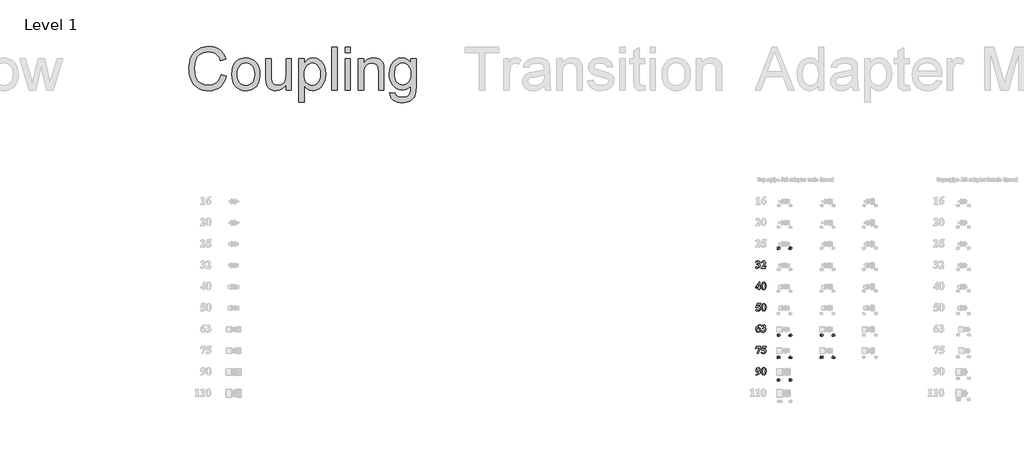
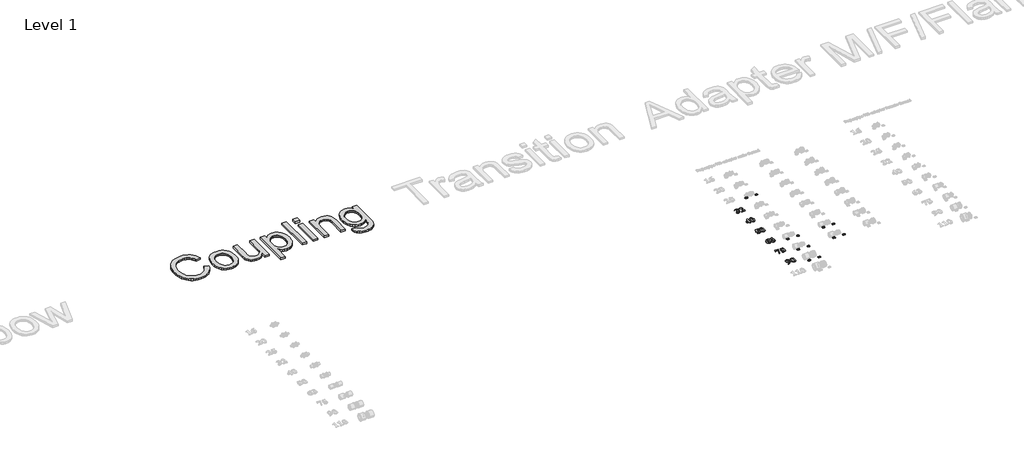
# One storey, part 32 of 57: 19 proxies.
"""IFC4 building model written with IfcOpenShell, lengths in millimetres."""

from ifc_helpers import new_model, si_unit, frame, origin, place, context, project, spatial, polyline, outline, extrude, element, save

model = new_model("IFC4")

# Units and contexts
model_context = context("Model", 3, world=origin())
ifc_project = project(units=[si_unit("LENGTHUNIT", "METRE", prefix="MILLI")], contexts=[model_context])

# Site, building, storey
site = spatial("IfcSite", under=ifc_project)
building = spatial("IfcBuilding", under=site)
storey = spatial("IfcBuildingStorey", under=building, Name="Level 1", Elevation=27.3876384)

# Proxies
placement = place(None, origin())
element("IfcBuildingElementProxy", 1, Name="100mm Arial", ObjectType="100mm Arial", at=placement, inside=storey, context=model_context, shape_type="SweptSolid", body=[
    extrude(outline(polyline([(28799.1420734, 17762.0336893), (28799.1420734, 17763.7786156), (28811.5746733, 17768.5907951), (28817.5592251, 17775.379649), (28820.0811889, 17784.6359377), (28815.3780673, 17795.773475), (28803.667976, 17800.4220677), (28793.6073853, 17797.9887135), (28785.1826631, 17790.6886508), (28783.4377368, 17791.6974363), (28797.8470109, 17806.0794459), (28817.436535, 17810.8916255), (28827.4869015, 17809.4397923), (28835.6083065, 17805.0842927), (28840.9759997, 17798.7861993), (28842.7652307, 17791.506585), (28838.7573531, 17781.7322713), (28826.1884309, 17773.4575036), (28842.4107926, 17762.1700117), (28846.6027053, 17754.6109365), (28848.0000096, 17745.3478316), (28845.0077337, 17729.585558), (28836.0309058, 17716.3793288), (28822.0305988, 17707.4331734), (28803.9678852, 17704.4511217), (28792.3668518, 17705.7325519), (28784.3919934, 17709.5768427), (28779.9478842, 17718.8740281), (28782.5243769, 17725.9491589), (28788.4816644, 17728.8800898), (28793.3347406, 17727.7895108), (28802.1956944, 17721.0551859), (28816.4822784, 17714.9206794), (28826.4065467, 17719.3784208), (28830.5507467, 17730.679545), (28828.5502159, 17740.6890148), (28822.5486238, 17749.8873665), (28812.6959247, 17757.3203435), (28799.1420734, 17762.0336893)])), frame((0.0, 0.0, 27.3876384), z_axis=(0.0, 0.0, 1.0), x_axis=(1.0, 0.0, 0.0)), (0.0, 0.0, 1.0), 2.0),
    extrude(outline(polyline([(28920.3326573, 17706.196048), (28858.4695674, 17706.196048), (28858.4695674, 17707.9409743), (28894.2405563, 17752.5456526), (28900.3477984, 17774.9297852), (28895.1266517, 17788.166687), (28882.3805104, 17793.4423626), (28871.3929277, 17790.5114317), (28863.1863212, 17781.718639), (28860.3780805, 17782.7274246), (28865.6367158, 17795.2281856), (28873.0696928, 17803.9937137), (28882.2475961, 17809.1671476), (28892.7410103, 17810.8916255), (28907.2729746, 17807.3063472), (28917.5653133, 17797.4911369), (28921.2869139, 17785.80831), (28915.7794903, 17765.6598643), (28903.7763059, 17749.1171451), (28882.871271, 17727.1351635), (28904.8464365, 17727.1351635), (28915.3841554, 17727.7349819), (28919.392033, 17729.7798174), (28923.5226007, 17735.8597949), (28926.5216927, 17735.8597949), (28920.3326573, 17706.196048)])), frame((0.0, 0.0, 27.3876384), z_axis=(0.0, 0.0, 1.0), x_axis=(1.0, 0.0, 0.0)), (0.0, 0.0, 1.0), 2.0),
])
element("IfcBuildingElementProxy", 2, Name="100mm Arial", ObjectType="100mm Arial", at=placement, inside=storey, context=model_context, shape_type="SweptSolid", body=[
    extrude(outline(polyline([(28783.4377368, 17444.5844264), (28832.7046401, 17510.8916255), (28842.7652307, 17510.8916255), (28842.7652307, 17444.5844264), (28851.4898622, 17444.5844264), (28851.4898622, 17428.8800898), (28842.7652307, 17428.8800898), (28842.7652307, 17406.196048), (28820.0811889, 17406.196048), (28820.0811889, 17428.8800898), (28783.4377368, 17428.8800898), (28783.4377368, 17444.5844264)]), holes=[polyline([(28788.7270446, 17444.5844264), (28820.0811889, 17444.5844264), (28820.0811889, 17486.7625666), (28788.7270446, 17444.5844264)])]), frame((0.0, 0.0, 27.3876384), z_axis=(0.0, 0.0, 1.0), x_axis=(1.0, 0.0, 0.0)), (0.0, 0.0, 1.0), 2.0),
    extrude(outline(polyline([(28930.0115453, 17457.6713736), (28925.5674362, 17429.0982056), (28918.4514086, 17415.7658781), (28908.3090246, 17407.5047427), (28895.9582182, 17404.4511217), (28882.1760269, 17408.213619), (28871.2838698, 17419.0103504), (28865.3129502, 17432.6425871), (28861.9594199, 17456.4717368), (28866.7852317, 17487.0624758), (28871.7746303, 17497.2491647), (28878.8361289, 17504.7434868), (28895.9582182, 17510.8916255), (28913.0939396, 17504.8252802), (28924.8040309, 17488.5074929), (28930.0115453, 17457.6713736)]), holes=[polyline([(28907.3275035, 17457.6713736), (28906.9730654, 17489.0255179), (28902.8561299, 17503.2303085), (28895.9036892, 17505.6568466), (28890.0690919, 17503.8301269), (28885.7613051, 17494.505677), (28884.6434617, 17447.8561632), (28886.3611236, 17418.6831767), (28890.0554597, 17411.498988), (28896.4217142, 17409.6859006), (28902.8561299, 17412.1124387), (28906.9730654, 17425.1721214), (28907.3275035, 17457.6713736)])]), frame((0.0, 0.0, 27.3876384), z_axis=(0.0, 0.0, 1.0), x_axis=(1.0, 0.0, 0.0)), (0.0, 0.0, 1.0), 2.0),
])
element("IfcBuildingElementProxy", 3, Name="100mm Arial", ObjectType="100mm Arial", at=placement, inside=storey, context=model_context, shape_type="SweptSolid", body=[
    extrude(outline(polyline([(28802.631926, 17209.1466992), (28851.4898622, 17209.1466992), (28844.510157, 17188.2075837), (28800.2326524, 17188.2075837), (28797.042709, 17179.4829522), (28821.3353547, 17175.7068227), (28839.3026426, 17166.3414761), (28848.4430573, 17155.0880647), (28851.4898622, 17141.394483), (28845.7915873, 17122.6910543), (28830.0736184, 17109.0042887), (28808.0848207, 17104.4511217), (28788.2635486, 17109.249669), (28783.4377368, 17116.9655149), (28785.9597006, 17122.8410089), (28791.8351946, 17125.3902372), (28797.9697011, 17124.0815425), (28808.6028457, 17117.1836307), (28816.7821877, 17112.4123479), (28822.2078178, 17111.4308268), (28833.0590782, 17115.9976261), (28837.5304518, 17126.9715766), (28834.1360249, 17139.0088416), (28823.9527441, 17148.5650395), (28808.5960295, 17154.8017878), (28789.6813012, 17156.8807039), (28783.4377368, 17156.7989104), (28802.631926, 17209.1466992)])), frame((0.0, 0.0, 27.3876384), z_axis=(0.0, 0.0, 1.0), x_axis=(1.0, 0.0, 0.0)), (0.0, 0.0, 1.0), 2.0),
    extrude(outline(polyline([(28930.0115453, 17157.6713736), (28925.5674362, 17129.0982056), (28918.4514086, 17115.7658781), (28908.3090246, 17107.5047427), (28895.9582182, 17104.4511217), (28882.1760269, 17108.213619), (28871.2838698, 17119.0103504), (28865.3129502, 17132.6425871), (28861.9594199, 17156.4717368), (28866.7852317, 17187.0624758), (28871.7746303, 17197.2491647), (28878.8361289, 17204.7434868), (28895.9582182, 17210.8916255), (28913.0939396, 17204.8252802), (28924.8040309, 17188.5074929), (28930.0115453, 17157.6713736)]), holes=[polyline([(28907.3275035, 17157.6713736), (28906.9730654, 17189.0255179), (28902.8561299, 17203.2303085), (28895.9036892, 17205.6568466), (28890.0690919, 17203.8301269), (28885.7613051, 17194.505677), (28884.6434617, 17147.8561632), (28886.3611236, 17118.6831767), (28890.0554597, 17111.498988), (28896.4217142, 17109.6859006), (28902.8561299, 17112.1124387), (28906.9730654, 17125.1721214), (28907.3275035, 17157.6713736)])]), frame((0.0, 0.0, 27.3876384), z_axis=(0.0, 0.0, 1.0), x_axis=(1.0, 0.0, 0.0)), (0.0, 0.0, 1.0), 2.0),
])
element("IfcBuildingElementProxy", 4, Name="100mm Arial", ObjectType="100mm Arial", at=placement, inside=storey, context=model_context, shape_type="SweptSolid", body=[
    extrude(outline(polyline([(28851.4898622, 16910.8916255), (28851.4898622, 16909.1466992), (28829.4738, 16900.0676296), (28816.3595883, 16886.5717153), (28808.9027549, 16866.91403), (28814.4647074, 16869.4496261), (28824.4435047, 16870.7583208), (28835.0664251, 16868.7032611), (28843.760384, 16862.5380821), (28849.5574926, 16852.8285215), (28851.4898622, 16840.1403172), (28847.2502366, 16821.8458556), (28835.2266039, 16808.9906565), (28818.5816429, 16804.4511217), (28800.7779418, 16809.6313716), (28788.0181683, 16824.804051), (28783.4377368, 16846.520204), (28785.5405093, 16863.1481247), (28791.8488268, 16878.5150634), (28802.0252915, 16891.7519652), (28815.7325054, 16901.989775), (28832.4081389, 16908.5843694), (28851.4898622, 16910.8916255)]), holes=[polyline([(28807.8667049, 16861.2975485), (28806.1217786, 16846.1112369), (28808.3165687, 16826.0582168), (28814.3283851, 16812.4668768), (28820.7900652, 16809.6859006), (28827.5652869, 16813.7074104), (28830.5507467, 16830.0524621), (28829.2284197, 16847.5698862), (28825.2614389, 16858.6801591), (28816.0733113, 16863.7786156), (28807.8667049, 16861.2975485)])]), frame((0.0, 0.0, 27.3876384), z_axis=(0.0, 0.0, 1.0), x_axis=(1.0, 0.0, 0.0)), (0.0, 0.0, 1.0), 2.0),
    extrude(outline(polyline([(28877.6637566, 16862.0336893), (28877.6637566, 16863.7786156), (28890.0963564, 16868.5907951), (28896.0809083, 16875.379649), (28898.6028721, 16884.6359377), (28893.8997504, 16895.773475), (28882.1896591, 16900.4220677), (28872.1290685, 16897.9887135), (28863.7043462, 16890.6886508), (28861.9594199, 16891.6974363), (28876.3686941, 16906.0794459), (28895.9582182, 16910.8916255), (28906.0085846, 16909.4397923), (28914.1299896, 16905.0842927), (28919.4976828, 16898.7861993), (28921.2869139, 16891.506585), (28917.2790363, 16881.7322713), (28904.7101141, 16873.4575036), (28920.9324757, 16862.1700117), (28925.1243885, 16854.6109365), (28926.5216927, 16845.3478316), (28923.5294168, 16829.585558), (28914.552589, 16816.3793288), (28900.5522819, 16807.4331734), (28882.4895683, 16804.4511217), (28870.8885349, 16805.7325519), (28862.9136765, 16809.5768427), (28858.4695674, 16818.8740281), (28861.0460601, 16825.9491589), (28867.0033475, 16828.8800898), (28871.8564237, 16827.7895108), (28880.7173776, 16821.0551859), (28895.0039616, 16814.9206794), (28904.9282299, 16819.3784208), (28909.0724298, 16830.679545), (28907.0718991, 16840.6890148), (28901.0703069, 16849.8873665), (28891.2176079, 16857.3203435), (28877.6637566, 16862.0336893)])), frame((0.0, 0.0, 27.3876384), z_axis=(0.0, 0.0, 1.0), x_axis=(1.0, 0.0, 0.0)), (0.0, 0.0, 1.0), 2.0),
])
element("IfcBuildingElementProxy", 5, Name="100mm Arial", ObjectType="100mm Arial", at=placement, inside=storey, context=model_context, shape_type="SweptSolid", body=[
    extrude(outline(polyline([(28806.0945141, 16506.196048), (28834.5040953, 16588.2075837), (28812.8561035, 16588.2075837), (28793.7437077, 16584.8540535), (28786.3550354, 16575.9930996), (28783.4377368, 16575.9930996), (28790.935467, 16609.1466992), (28852.7167635, 16609.1466992), (28816.2914271, 16506.196048), (28806.0945141, 16506.196048)])), frame((0.0, 0.0, 27.3876384), z_axis=(0.0, 0.0, 1.0), x_axis=(1.0, 0.0, 0.0)), (0.0, 0.0, 1.0), 2.0),
    extrude(outline(polyline([(28881.1536091, 16609.1466992), (28930.0115453, 16609.1466992), (28923.0318402, 16588.2075837), (28878.7543355, 16588.2075837), (28875.5643921, 16579.4829522), (28899.8570378, 16575.7068227), (28917.8243258, 16566.3414761), (28926.9647404, 16555.0880647), (28930.0115453, 16541.394483), (28924.3132704, 16522.6910543), (28908.5953015, 16509.0042887), (28886.6065038, 16504.4511217), (28866.7852317, 16509.249669), (28861.9594199, 16516.9655149), (28864.4813837, 16522.8410089), (28870.3568777, 16525.3902372), (28876.4913842, 16524.0815425), (28887.1245288, 16517.1836307), (28895.3038708, 16512.4123479), (28900.729501, 16511.4308268), (28911.5807614, 16515.9976261), (28916.052135, 16526.9715766), (28912.6577081, 16539.0088416), (28902.4744273, 16548.5650395), (28887.1177127, 16554.8017878), (28868.2029843, 16556.8807039), (28861.9594199, 16556.7989104), (28881.1536091, 16609.1466992)])), frame((0.0, 0.0, 27.3876384), z_axis=(0.0, 0.0, 1.0), x_axis=(1.0, 0.0, 0.0)), (0.0, 0.0, 1.0), 2.0),
])
element("IfcBuildingElementProxy", 6, Name="100mm Arial", ObjectType="100mm Arial", at=placement, inside=storey, context=model_context, shape_type="SweptSolid", body=[
    extrude(outline(polyline([(28783.4377368, 16204.4511217), (28783.4377368, 16206.196048), (28805.6310181, 16214.8116215), (28820.0675567, 16228.9073542), (28827.5243901, 16248.2378658), (28819.1678291, 16245.3887284), (28811.9018469, 16244.5844264), (28800.7097806, 16246.6394861), (28791.5625498, 16252.8046651), (28785.4689401, 16262.5483062), (28783.4377368, 16275.3387523), (28787.7046269, 16293.524156), (28799.8918464, 16306.3384584), (28816.3459561, 16310.8916255), (28833.6588966, 16305.7659045), (28846.6504182, 16290.9203988), (28851.4898622, 16268.7407497), (28849.5268201, 16252.9614358), (28843.6376939, 16237.8501015), (28833.8599721, 16224.5348143), (28820.2311435, 16214.1436419), (28803.2556008, 16207.2559544), (28783.4377368, 16204.4511217)]), holes=[polyline([(28828.8058204, 16253.9634052), (28828.8058204, 16268.7952787), (28825.3159678, 16294.3420902), (28819.454106, 16303.9937137), (28814.0557403, 16305.6568466), (28807.5940601, 16302.4123743), (28804.3768523, 16285.4538719), (28805.7877888, 16267.834206), (28810.0205983, 16256.6898525), (28819.972131, 16251.5641316), (28828.8058204, 16253.9634052)])]), frame((0.0, 0.0, 27.3876384), z_axis=(0.0, 0.0, 1.0), x_axis=(1.0, 0.0, 0.0)), (0.0, 0.0, 1.0), 2.0),
    extrude(outline(polyline([(28930.0115453, 16257.6713736), (28925.5674362, 16229.0982056), (28918.4514086, 16215.7658781), (28908.3090246, 16207.5047427), (28895.9582182, 16204.4511217), (28882.1760269, 16208.213619), (28871.2838698, 16219.0103504), (28865.3129502, 16232.6425871), (28861.9594199, 16256.4717368), (28866.7852317, 16287.0624758), (28871.7746303, 16297.2491647), (28878.8361289, 16304.7434868), (28895.9582182, 16310.8916255), (28913.0939396, 16304.8252802), (28924.8040309, 16288.5074929), (28930.0115453, 16257.6713736)]), holes=[polyline([(28907.3275035, 16257.6713736), (28906.9730654, 16289.0255179), (28902.8561299, 16303.2303085), (28895.9036892, 16305.6568466), (28890.0690919, 16303.8301269), (28885.7613051, 16294.505677), (28884.6434617, 16247.8561632), (28886.3611236, 16218.6831767), (28890.0554597, 16211.498988), (28896.4217142, 16209.6859006), (28902.8561299, 16212.1124387), (28906.9730654, 16225.1721214), (28907.3275035, 16257.6713736)])]), frame((0.0, 0.0, 27.3876384), z_axis=(0.0, 0.0, 1.0), x_axis=(1.0, 0.0, 0.0)), (0.0, 0.0, 1.0), 2.0),
])
element("IfcBuildingElementProxy", 7, Name="30mm Arial", ObjectType="30mm Arial", at=placement, inside=storey, context=model_context, shape_type="SweptSolid", body=[
    extrude(outline(polyline([(29102.0287378, 17979.4089076), (29102.0287378, 17973.5788539), (29082.5952254, 17973.5788539), (29084.4550733, 17979.298835), (29090.566002, 17986.4687383), (29095.0751842, 17991.3574813), (29096.1986841, 17994.864623), (29095.2535777, 17997.8138103), (29092.6459951, 17998.84242), (29090.0346169, 17997.8289927), (29088.911117, 17994.4698797), (29083.0810633, 17995.0012648), (29086.2086442, 18002.0497087), (29092.7750458, 18004.1866359), (29099.5615927, 18001.7916074), (29102.0287378, 17995.8362986), (29101.3531196, 17991.979961), (29099.2123968, 17988.146397), (29095.5875912, 17984.3204243), (29092.2588431, 17981.003063), (29091.1657081, 17979.4089076), (29102.0287378, 17979.4089076)])), frame((0.0, 0.0, 27.3876384), z_axis=(0.0, 0.0, 1.0), x_axis=(1.0, 0.0, 0.0)), (0.0, 0.0, 1.0), 2.0),
    extrude(outline(polyline([(29105.9154403, 17982.1948838), (29111.2596562, 17982.8097723), (29112.7475345, 17979.6138705), (29115.6018316, 17978.437232), (29118.7256169, 17979.685987), (29120.0047368, 17983.4474344), (29118.8167115, 17986.9773498), (29115.7232911, 17988.1539882), (29111.4570278, 17985.7247992), (29106.4012781, 17986.4763295), (29109.8021428, 18003.7007981), (29124.3772771, 18003.7007981), (29124.3772771, 17997.8707444), (29114.5162878, 17997.8707444), (29113.3396493, 17992.3063832), (29117.0973011, 17993.4982041), (29123.2917332, 17990.7387972), (29125.8347905, 17983.5764851), (29123.7168413, 17977.0252659), (29115.6929262, 17973.0930161), (29109.0088607, 17975.5601612), (29105.9154403, 17982.1948838)])), frame((0.0, 0.0, 27.3876384), z_axis=(0.0, 0.0, 1.0), x_axis=(1.0, 0.0, 0.0)), (0.0, 0.0, 1.0), 2.0),
])
element("IfcBuildingElementProxy", 8, Name="30mm Arial", ObjectType="30mm Arial", at=placement, inside=storey, context=model_context, shape_type="SweptSolid", body=[
    extrude(outline(polyline([(29262.0336573, 17973.5788539), (29262.0336573, 17979.8947455), (29250.3735498, 17979.8947455), (29250.3735498, 17984.7303499), (29262.8079613, 18003.7007981), (29267.863711, 18003.7007981), (29267.863711, 17984.7531236), (29271.7504134, 17984.7531236), (29271.7504134, 17979.8947455), (29267.863711, 17979.8947455), (29267.863711, 17973.5788539), (29262.0336573, 17973.5788539)]), holes=[polyline([(29262.0336573, 17984.7531236), (29262.0336573, 17994.6976162), (29255.5203941, 17984.7531236), (29262.0336573, 17984.7531236)])]), frame((0.0, 0.0, 27.3876384), z_axis=(0.0, 0.0, 1.0), x_axis=(1.0, 0.0, 0.0)), (0.0, 0.0, 1.0), 2.0),
    extrude(outline(polyline([(29284.3821965, 18004.1866359), (29291.1763346, 18001.0286902), (29294.0989527, 17988.6322348), (29291.1611522, 17976.2054146), (29284.3821965, 17973.0930161), (29277.3413439, 17976.5090632), (29274.6654403, 17988.6929645), (29277.6032408, 18001.0742375), (29284.3821965, 18004.1866359)]), holes=[polyline([(29284.3821965, 17998.84242), (29282.4388453, 17998.2009623), (29281.1179737, 17995.8970283), (29280.495494, 17988.6322348), (29281.0496528, 17981.6141558), (29282.4502321, 17979.0710985), (29284.3821965, 17978.437232), (29286.3255477, 17979.0786898), (29287.6464193, 17981.3826237), (29288.268899, 17988.6322348), (29287.7147402, 17995.6465182), (29286.3141609, 17998.2009623), (29284.3821965, 17998.84242)])]), frame((0.0, 0.0, 27.3876384), z_axis=(0.0, 0.0, 1.0), x_axis=(1.0, 0.0, 0.0)), (0.0, 0.0, 1.0), 2.0),
])
element("IfcBuildingElementProxy", 9, Name="30mm Arial", ObjectType="30mm Arial", at=placement, inside=storey, context=model_context, shape_type="SweptSolid", body=[
    extrude(outline(polyline([(29101.5429, 16772.0640351), (29095.7128463, 16771.4415554), (29094.680441, 16774.0111819), (29092.5093532, 16774.84242), (29089.5184142, 16773.2292867), (29087.9773974, 16766.4541266), (29093.3064309, 16769.0123663), (29099.4667025, 16766.2795286), (29102.0287378, 16759.2272892), (29099.4097684, 16751.8676055), (29092.67636, 16749.0930161), (29085.4343401, 16752.67607), (29082.5952254, 16764.4196808), (29085.5595952, 16776.4897138), (29093.2608836, 16780.1866359), (29098.764515, 16778.1066428), (29101.5429, 16772.0640351)]), holes=[polyline([(29088.4252792, 16759.3563398), (29089.685421, 16755.7163519), (29092.5624918, 16754.437232), (29095.1586876, 16755.4848198), (29096.1986841, 16758.9236405), (29095.0789798, 16762.5256724), (29092.2816168, 16763.6681504), (29089.5449835, 16762.5750153), (29088.4252792, 16759.3563398)])]), frame((0.0, 0.0, 27.3876384), z_axis=(0.0, 0.0, 1.0), x_axis=(1.0, 0.0, 0.0)), (0.0, 0.0, 1.0), 2.0),
    extrude(outline(polyline([(29105.9154403, 16758.1341541), (29111.745494, 16758.8097723), (29113.0587743, 16755.560732), (29115.6473789, 16754.437232), (29118.4029903, 16755.7239431), (29119.518899, 16759.1893331), (29118.4978804, 16762.4611471), (29116.0041661, 16763.6681504), (29113.6888453, 16763.2354511), (29114.1974567, 16768.0406907), (29117.0707319, 16768.9971839), (29118.0613855, 16771.6996567), (29117.321242, 16773.9884083), (29115.3513215, 16774.84242), (29113.275124, 16773.8517664), (29112.2313318, 16770.9557175), (29106.4012781, 16771.8287074), (29108.0068202, 16776.4631446), (29111.0053505, 16779.1921867), (29115.3133654, 16780.1866359), (29121.8569934, 16777.4310246), (29123.8914393, 16772.3297276), (29119.5264902, 16765.8999678), (29123.7623886, 16763.3986622), (29125.3489527, 16758.7034953), (29122.5364072, 16751.9055616), (29115.5335107, 16749.0930161), (29108.948131, 16751.5943217), (29105.9154403, 16758.1341541)])), frame((0.0, 0.0, 27.3876384), z_axis=(0.0, 0.0, 1.0), x_axis=(1.0, 0.0, 0.0)), (0.0, 0.0, 1.0), 2.0),
])
element("IfcBuildingElementProxy", 10, Name="30mm Arial", ObjectType="30mm Arial", at=placement, inside=storey, context=model_context, shape_type="SweptSolid", body=[
    extrude(outline(polyline([(29262.0336573, 16749.5788539), (29262.0336573, 16755.8947455), (29250.3735498, 16755.8947455), (29250.3735498, 16760.7303499), (29262.8079613, 16779.7007981), (29267.863711, 16779.7007981), (29267.863711, 16760.7531236), (29271.7504134, 16760.7531236), (29271.7504134, 16755.8947455), (29267.863711, 16755.8947455), (29267.863711, 16749.5788539), (29262.0336573, 16749.5788539)]), holes=[polyline([(29262.0336573, 16760.7531236), (29262.0336573, 16770.6976162), (29255.5203941, 16760.7531236), (29262.0336573, 16760.7531236)])]), frame((0.0, 0.0, 27.3876384), z_axis=(0.0, 0.0, 1.0), x_axis=(1.0, 0.0, 0.0)), (0.0, 0.0, 1.0), 2.0),
    extrude(outline(polyline([(29284.3821965, 16780.1866359), (29291.1763346, 16777.0286902), (29294.0989527, 16764.6322348), (29291.1611522, 16752.2054146), (29284.3821965, 16749.0930161), (29277.3413439, 16752.5090632), (29274.6654403, 16764.6929645), (29277.6032408, 16777.0742375), (29284.3821965, 16780.1866359)]), holes=[polyline([(29284.3821965, 16774.84242), (29282.4388453, 16774.2009623), (29281.1179737, 16771.8970283), (29280.495494, 16764.6322348), (29281.0496528, 16757.6141558), (29282.4502321, 16755.0710985), (29284.3821965, 16754.437232), (29286.3255477, 16755.0786898), (29287.6464193, 16757.3826237), (29288.268899, 16764.6322348), (29287.7147402, 16771.6465182), (29286.3141609, 16774.2009623), (29284.3821965, 16774.84242)])]), frame((0.0, 0.0, 27.3876384), z_axis=(0.0, 0.0, 1.0), x_axis=(1.0, 0.0, 0.0)), (0.0, 0.0, 1.0), 2.0),
])
element("IfcBuildingElementProxy", 11, Name="30mm Arial", ObjectType="30mm Arial", at=placement, inside=storey, context=model_context, shape_type="SweptSolid", body=[
    extrude(outline(polyline([(29082.5952254, 16463.7207444), (29082.5952254, 16469.5507981), (29102.0287378, 16469.5507981), (29102.0287378, 16465.1782578), (29097.022331, 16458.2095218), (29093.1394242, 16448.5610865), (29091.8261438, 16439.4288539), (29085.9960901, 16439.4288539), (29088.6568112, 16452.1403447), (29095.3636504, 16463.7207444), (29082.5952254, 16463.7207444)])), frame((0.0, 0.0, 27.3876384), z_axis=(0.0, 0.0, 1.0), x_axis=(1.0, 0.0, 0.0)), (0.0, 0.0, 1.0), 2.0),
    extrude(outline(polyline([(29105.9154403, 16448.0448838), (29111.2596562, 16448.6597723), (29112.7475345, 16445.4638705), (29115.6018316, 16444.287232), (29118.7256169, 16445.535987), (29120.0047368, 16449.2974344), (29118.8167115, 16452.8273498), (29115.7232911, 16454.0039882), (29111.4570278, 16451.5747992), (29106.4012781, 16452.3263295), (29109.8021428, 16469.5507981), (29124.3772771, 16469.5507981), (29124.3772771, 16463.7207444), (29114.5162878, 16463.7207444), (29113.3396493, 16458.1563832), (29117.0973011, 16459.3482041), (29123.2917332, 16456.5887972), (29125.8347905, 16449.4264851), (29123.7168413, 16442.8752659), (29115.6929262, 16438.9430161), (29109.0088607, 16441.4101612), (29105.9154403, 16448.0448838)])), frame((0.0, 0.0, 27.3876384), z_axis=(0.0, 0.0, 1.0), x_axis=(1.0, 0.0, 0.0)), (0.0, 0.0, 1.0), 2.0),
])
element("IfcBuildingElementProxy", 12, Name="30mm Arial", ObjectType="30mm Arial", at=placement, inside=storey, context=model_context, shape_type="SweptSolid", body=[
    extrude(outline(polyline([(29262.0336573, 16439.4288539), (29262.0336573, 16445.7447455), (29250.3735498, 16445.7447455), (29250.3735498, 16450.5803499), (29262.8079613, 16469.5507981), (29267.863711, 16469.5507981), (29267.863711, 16450.6031236), (29271.7504134, 16450.6031236), (29271.7504134, 16445.7447455), (29267.863711, 16445.7447455), (29267.863711, 16439.4288539), (29262.0336573, 16439.4288539)]), holes=[polyline([(29262.0336573, 16450.6031236), (29262.0336573, 16460.5476162), (29255.5203941, 16450.6031236), (29262.0336573, 16450.6031236)])]), frame((0.0, 0.0, 27.3876384), z_axis=(0.0, 0.0, 1.0), x_axis=(1.0, 0.0, 0.0)), (0.0, 0.0, 1.0), 2.0),
    extrude(outline(polyline([(29284.3821965, 16470.0366359), (29291.1763346, 16466.8786902), (29294.0989527, 16454.4822348), (29291.1611522, 16442.0554146), (29284.3821965, 16438.9430161), (29277.3413439, 16442.3590632), (29274.6654403, 16454.5429645), (29277.6032408, 16466.9242375), (29284.3821965, 16470.0366359)]), holes=[polyline([(29284.3821965, 16464.69242), (29282.4388453, 16464.0509623), (29281.1179737, 16461.7470283), (29280.495494, 16454.4822348), (29281.0496528, 16447.4641558), (29282.4502321, 16444.9210985), (29284.3821965, 16444.287232), (29286.3255477, 16444.9286898), (29287.6464193, 16447.2326237), (29288.268899, 16454.4822348), (29287.7147402, 16461.4965182), (29286.3141609, 16464.0509623), (29284.3821965, 16464.69242)])]), frame((0.0, 0.0, 27.3876384), z_axis=(0.0, 0.0, 1.0), x_axis=(1.0, 0.0, 0.0)), (0.0, 0.0, 1.0), 2.0),
])
element("IfcBuildingElementProxy", 13, Name="30mm Arial", ObjectType="30mm Arial", at=placement, inside=storey, context=model_context, shape_type="SweptSolid", body=[
    extrude(outline(polyline([(29706.5429, 16772.0640351), (29700.7128463, 16771.4415554), (29699.680441, 16774.0111819), (29697.5093532, 16774.84242), (29694.5184142, 16773.2292867), (29692.9773974, 16766.4541266), (29698.3064309, 16769.0123663), (29704.4667025, 16766.2795286), (29707.0287378, 16759.2272892), (29704.4097684, 16751.8676055), (29697.67636, 16749.0930161), (29690.4343401, 16752.67607), (29687.5952254, 16764.4196808), (29690.5595952, 16776.4897138), (29698.2608836, 16780.1866359), (29703.764515, 16778.1066428), (29706.5429, 16772.0640351)]), holes=[polyline([(29693.4252792, 16759.3563398), (29694.685421, 16755.7163519), (29697.5624918, 16754.437232), (29700.1586876, 16755.4848198), (29701.1986841, 16758.9236405), (29700.0789798, 16762.5256724), (29697.2816168, 16763.6681504), (29694.5449835, 16762.5750153), (29693.4252792, 16759.3563398)])]), frame((0.0, 0.0, 27.3876384), z_axis=(0.0, 0.0, 1.0), x_axis=(1.0, 0.0, 0.0)), (0.0, 0.0, 1.0), 2.0),
    extrude(outline(polyline([(29710.9154403, 16758.1341541), (29716.745494, 16758.8097723), (29718.0587743, 16755.560732), (29720.6473789, 16754.437232), (29723.4029903, 16755.7239431), (29724.518899, 16759.1893331), (29723.4978804, 16762.4611471), (29721.0041661, 16763.6681504), (29718.6888453, 16763.2354511), (29719.1974567, 16768.0406907), (29722.0707319, 16768.9971839), (29723.0613855, 16771.6996567), (29722.321242, 16773.9884083), (29720.3513215, 16774.84242), (29718.275124, 16773.8517664), (29717.2313318, 16770.9557175), (29711.4012781, 16771.8287074), (29713.0068202, 16776.4631446), (29716.0053505, 16779.1921867), (29720.3133654, 16780.1866359), (29726.8569934, 16777.4310246), (29728.8914393, 16772.3297276), (29724.5264902, 16765.8999678), (29728.7623886, 16763.3986622), (29730.3489527, 16758.7034953), (29727.5364072, 16751.9055616), (29720.5335107, 16749.0930161), (29713.948131, 16751.5943217), (29710.9154403, 16758.1341541)])), frame((0.0, 0.0, 27.3876384), z_axis=(0.0, 0.0, 1.0), x_axis=(1.0, 0.0, 0.0)), (0.0, 0.0, 1.0), 2.0),
])
element("IfcBuildingElementProxy", 14, Name="30mm Arial", ObjectType="30mm Arial", at=placement, inside=storey, context=model_context, shape_type="SweptSolid", body=[
    extrude(outline(polyline([(29856.3452254, 16758.1948838), (29861.6894414, 16758.8097723), (29863.1773196, 16755.6138705), (29866.0316168, 16754.437232), (29869.1554021, 16755.685987), (29870.4345219, 16759.4474344), (29869.2464967, 16762.9773498), (29866.1530762, 16764.1539882), (29861.886813, 16761.7247992), (29856.8310633, 16762.4763295), (29860.2319279, 16779.7007981), (29874.8070622, 16779.7007981), (29874.8070622, 16773.8707444), (29864.9460729, 16773.8707444), (29863.7694345, 16768.3063832), (29867.5270863, 16769.4982041), (29873.7215184, 16766.7387972), (29876.2645756, 16759.5764851), (29874.1466264, 16753.0252659), (29866.1227114, 16749.0930161), (29859.4386459, 16751.5601612), (29856.3452254, 16758.1948838)])), frame((0.0, 0.0, 27.3876384), z_axis=(0.0, 0.0, 1.0), x_axis=(1.0, 0.0, 0.0)), (0.0, 0.0, 1.0), 2.0),
    extrude(outline(polyline([(29889.3821965, 16780.1866359), (29896.1763346, 16777.0286902), (29899.0989527, 16764.6322348), (29896.1611522, 16752.2054146), (29889.3821965, 16749.0930161), (29882.3413439, 16752.5090632), (29879.6654403, 16764.6929645), (29882.6032408, 16777.0742375), (29889.3821965, 16780.1866359)]), holes=[polyline([(29889.3821965, 16774.84242), (29887.4388453, 16774.2009623), (29886.1179737, 16771.8970283), (29885.495494, 16764.6322348), (29886.0496528, 16757.6141558), (29887.4502321, 16755.0710985), (29889.3821965, 16754.437232), (29891.3255477, 16755.0786898), (29892.6464193, 16757.3826237), (29893.268899, 16764.6322348), (29892.7147402, 16771.6465182), (29891.3141609, 16774.2009623), (29889.3821965, 16774.84242)])]), frame((0.0, 0.0, 27.3876384), z_axis=(0.0, 0.0, 1.0), x_axis=(1.0, 0.0, 0.0)), (0.0, 0.0, 1.0), 2.0),
])
element("IfcBuildingElementProxy", 15, Name="30mm Arial", ObjectType="30mm Arial", at=placement, inside=storey, context=model_context, shape_type="SweptSolid", body=[
    extrude(outline(polyline([(29687.5952254, 16463.7207444), (29687.5952254, 16469.5507981), (29707.0287378, 16469.5507981), (29707.0287378, 16465.1782578), (29702.022331, 16458.2095218), (29698.1394242, 16448.5610865), (29696.8261438, 16439.4288539), (29690.9960901, 16439.4288539), (29693.6568112, 16452.1403447), (29700.3636504, 16463.7207444), (29687.5952254, 16463.7207444)])), frame((0.0, 0.0, 27.3876384), z_axis=(0.0, 0.0, 1.0), x_axis=(1.0, 0.0, 0.0)), (0.0, 0.0, 1.0), 2.0),
    extrude(outline(polyline([(29710.9154403, 16448.0448838), (29716.2596562, 16448.6597723), (29717.7475345, 16445.4638705), (29720.6018316, 16444.287232), (29723.7256169, 16445.535987), (29725.0047368, 16449.2974344), (29723.8167115, 16452.8273498), (29720.7232911, 16454.0039882), (29716.4570278, 16451.5747992), (29711.4012781, 16452.3263295), (29714.8021428, 16469.5507981), (29729.3772771, 16469.5507981), (29729.3772771, 16463.7207444), (29719.5162878, 16463.7207444), (29718.3396493, 16458.1563832), (29722.0973011, 16459.3482041), (29728.2917332, 16456.5887972), (29730.8347905, 16449.4264851), (29728.7168413, 16442.8752659), (29720.6929262, 16438.9430161), (29714.0088607, 16441.4101612), (29710.9154403, 16448.0448838)])), frame((0.0, 0.0, 27.3876384), z_axis=(0.0, 0.0, 1.0), x_axis=(1.0, 0.0, 0.0)), (0.0, 0.0, 1.0), 2.0),
])
element("IfcBuildingElementProxy", 16, Name="30mm Arial", ObjectType="30mm Arial", at=placement, inside=storey, context=model_context, shape_type="SweptSolid", body=[
    extrude(outline(polyline([(29856.3452254, 16448.0448838), (29861.6894414, 16448.6597723), (29863.1773196, 16445.4638705), (29866.0316168, 16444.287232), (29869.1554021, 16445.535987), (29870.4345219, 16449.2974344), (29869.2464967, 16452.8273498), (29866.1530762, 16454.0039882), (29861.886813, 16451.5747992), (29856.8310633, 16452.3263295), (29860.2319279, 16469.5507981), (29874.8070622, 16469.5507981), (29874.8070622, 16463.7207444), (29864.9460729, 16463.7207444), (29863.7694345, 16458.1563832), (29867.5270863, 16459.3482041), (29873.7215184, 16456.5887972), (29876.2645756, 16449.4264851), (29874.1466264, 16442.8752659), (29866.1227114, 16438.9430161), (29859.4386459, 16441.4101612), (29856.3452254, 16448.0448838)])), frame((0.0, 0.0, 27.3876384), z_axis=(0.0, 0.0, 1.0), x_axis=(1.0, 0.0, 0.0)), (0.0, 0.0, 1.0), 2.0),
    extrude(outline(polyline([(29889.3821965, 16470.0366359), (29896.1763346, 16466.8786902), (29899.0989527, 16454.4822348), (29896.1611522, 16442.0554146), (29889.3821965, 16438.9430161), (29882.3413439, 16442.3590632), (29879.6654403, 16454.5429645), (29882.6032408, 16466.9242375), (29889.3821965, 16470.0366359)]), holes=[polyline([(29889.3821965, 16464.69242), (29887.4388453, 16464.0509623), (29886.1179737, 16461.7470283), (29885.495494, 16454.4822348), (29886.0496528, 16447.4641558), (29887.4502321, 16444.9210985), (29889.3821965, 16444.287232), (29891.3255477, 16444.9286898), (29892.6464193, 16447.2326237), (29893.268899, 16454.4822348), (29892.7147402, 16461.4965182), (29891.3141609, 16464.0509623), (29889.3821965, 16464.69242)])]), frame((0.0, 0.0, 27.3876384), z_axis=(0.0, 0.0, 1.0), x_axis=(1.0, 0.0, 0.0)), (0.0, 0.0, 1.0), 2.0),
])
element("IfcBuildingElementProxy", 17, Name="30mm Arial", ObjectType="30mm Arial", at=placement, inside=storey, context=model_context, shape_type="SweptSolid", body=[
    extrude(outline(polyline([(29083.0810633, 16127.065617), (29088.911117, 16127.6880967), (29089.9473179, 16125.1222658), (29092.1601573, 16124.287232), (29095.105549, 16125.9003654), (29096.6617483, 16132.6527518), (29091.2492114, 16130.1172857), (29085.1572608, 16132.8387366), (29082.5952254, 16139.9251365), (29085.2255817, 16147.2544553), (29091.9248296, 16150.0366359), (29099.1896231, 16146.4573777), (29102.0287378, 16134.6796064), (29099.0605725, 16122.6361426), (29091.3327148, 16118.9430161), (29085.7911273, 16120.9774619), (29083.0810633, 16127.065617)]), holes=[polyline([(29096.1986841, 16139.7884946), (29094.9461335, 16143.405709), (29092.0538803, 16144.69242), (29089.4576845, 16143.637241), (29088.4252792, 16140.1832379), (29089.5487791, 16136.6039796), (29092.3499377, 16135.4615016), (29095.086571, 16136.5584323), (29096.1986841, 16139.7884946)])]), frame((0.0, 0.0, 27.3876384), z_axis=(0.0, 0.0, 1.0), x_axis=(1.0, 0.0, 0.0)), (0.0, 0.0, 1.0), 2.0),
    extrude(outline(polyline([(29115.6321965, 16150.0366359), (29122.4263346, 16146.8786902), (29125.3489527, 16134.4822348), (29122.4111522, 16122.0554146), (29115.6321965, 16118.9430161), (29108.5913439, 16122.3590632), (29105.9154403, 16134.5429645), (29108.8532408, 16146.9242375), (29115.6321965, 16150.0366359)]), holes=[polyline([(29115.6321965, 16144.69242), (29113.6888453, 16144.0509623), (29112.3679737, 16141.7470283), (29111.745494, 16134.4822348), (29112.2996528, 16127.4641558), (29113.7002321, 16124.9210985), (29115.6321965, 16124.287232), (29117.5755477, 16124.9286898), (29118.8964193, 16127.2326237), (29119.518899, 16134.4822348), (29118.9647402, 16141.4965182), (29117.5641609, 16144.0509623), (29115.6321965, 16144.69242)])]), frame((0.0, 0.0, 27.3876384), z_axis=(0.0, 0.0, 1.0), x_axis=(1.0, 0.0, 0.0)), (0.0, 0.0, 1.0), 2.0),
])
element("IfcBuildingElementProxy", 18, Name="30mm Arial", ObjectType="30mm Arial", at=placement, inside=storey, context=model_context, shape_type="SweptSolid", body=[
    extrude(outline(polyline([(29256.4617049, 16135.8486536), (29252.9317895, 16138.4828055), (29251.8310633, 16142.1645452), (29254.233683, 16147.8086141), (29261.0619816, 16150.0366359), (29267.8713022, 16147.8086141), (29270.2929, 16142.1645452), (29269.0669187, 16138.3803241), (29265.6167111, 16135.8486536), (29269.4616619, 16132.8880795), (29270.7787378, 16128.401671), (29268.1673596, 16121.5695768), (29261.2213972, 16118.9430161), (29254.5107624, 16121.1141038), (29251.3452254, 16128.1511609), (29252.578798, 16132.6717298), (29256.4617049, 16135.8486536)]), holes=[polyline([(29257.1752792, 16128.6445899), (29258.3063703, 16124.7237269), (29261.1303026, 16123.3155564), (29263.8669359, 16124.6705884), (29264.9486841, 16128.5762689), (29263.8479578, 16132.1631184), (29261.0543904, 16133.5181504), (29258.135568, 16131.9809292), (29257.1752792, 16128.6445899)]), polyline([(29257.661117, 16141.807758), (29258.5834497, 16138.9268916), (29261.039208, 16137.8906907), (29263.5291268, 16138.9382785), (29264.4628463, 16141.8305317), (29263.5405136, 16144.6165079), (29261.0999377, 16145.6640956), (29258.5948365, 16144.6089167), (29257.661117, 16141.807758)])]), frame((0.0, 0.0, 27.3876384), z_axis=(0.0, 0.0, 1.0), x_axis=(1.0, 0.0, 0.0)), (0.0, 0.0, 1.0), 2.0),
    extrude(outline(polyline([(29284.3821965, 16150.0366359), (29291.1763346, 16146.8786902), (29294.0989527, 16134.4822348), (29291.1611522, 16122.0554146), (29284.3821965, 16118.9430161), (29277.3413439, 16122.3590632), (29274.6654403, 16134.5429645), (29277.6032408, 16146.9242375), (29284.3821965, 16150.0366359)]), holes=[polyline([(29284.3821965, 16144.69242), (29282.4388453, 16144.0509623), (29281.1179737, 16141.7470283), (29280.495494, 16134.4822348), (29281.0496528, 16127.4641558), (29282.4502321, 16124.9210985), (29284.3821965, 16124.287232), (29286.3255477, 16124.9286898), (29287.6464193, 16127.2326237), (29288.268899, 16134.4822348), (29287.7147402, 16141.4965182), (29286.3141609, 16144.0509623), (29284.3821965, 16144.69242)])]), frame((0.0, 0.0, 27.3876384), z_axis=(0.0, 0.0, 1.0), x_axis=(1.0, 0.0, 0.0)), (0.0, 0.0, 1.0), 2.0),
])
element("IfcBuildingElementProxy", 19, Name="600mm Arial", ObjectType="600mm Arial", at=placement, inside=storey, context=model_context, shape_type="SweptSolid", body=[
    extrude(outline(polyline([(21270.5428492, 20428.0223748), (21345.8850818, 20408.5982055), (21330.976664, 20361.7438348), (21311.1202333, 20320.8031673), (21286.3157898, 20285.7762028), (21256.5633334, 20256.6629414), (21222.5342489, 20233.7760828), (21184.8999208, 20217.4283267), (21143.6603491, 20207.619673), (21098.8155339, 20204.3501217), (21052.8716712, 20206.8241281), (21011.4251659, 20214.2461474), (20974.476018, 20226.6161795), (20942.0242275, 20243.9342244), (20913.6237375, 20265.9427648), (20888.828491, 20292.3842832), (20867.6384881, 20323.2587796), (20850.0537287, 20358.5662541), (20836.2443583, 20396.7799964), (20826.3805224, 20436.3732961), (20820.4622208, 20477.3461533), (20818.4894536, 20519.698568), (20820.7197382, 20565.1411914), (20827.4105919, 20607.5855766), (20838.5620149, 20647.0317236), (20854.1740071, 20683.4796322), (20873.8970806, 20716.3268959), (20897.3817474, 20744.9711077), (20924.6280077, 20769.4122678), (20955.6358614, 20789.6503761), (20989.3522462, 20805.5198856), (21024.7241001, 20816.8552496), (21061.7514229, 20823.656468), (21100.4342147, 20825.9235408), (21143.5269919, 20822.9896819), (21183.0421167, 20814.1881051), (21218.9795891, 20799.5188106), (21251.3394091, 20778.9817982), (21279.5881478, 20753.1196939), (21303.1923763, 20722.4751237), (21322.1520946, 20687.0480876), (21336.4673028, 20646.8385855), (21261.1250702, 20628.8859442), (21249.2608758, 20658.5142403), (21235.0054485, 20683.8291201), (21218.3587882, 20704.8305835), (21199.320895, 20721.5186305), (21177.7814041, 20734.233552), (21153.6299512, 20743.3156388), (21126.866536, 20748.7648908), (21097.4911587, 20750.5813082), (21063.6920004, 20748.5671542), (21032.7807157, 20742.5246925), (21004.7573048, 20732.4539229), (20979.6217674, 20718.3548454), (20957.691402, 20700.8620565), (20939.2835067, 20680.6101527), (20924.3980814, 20657.5991339), (20913.0351263, 20631.8290001), (20898.6325462, 20576.683489), (20893.8316862, 20519.8457208), (20899.515463, 20450.2424473), (20906.620184, 20418.9724777), (20916.5667935, 20390.0569529), (20929.5162397, 20364.0706885), (20945.6294711, 20341.5885), (20964.9064876, 20322.6103876), (20987.3472893, 20307.1363512), (21011.8620258, 20295.1296026), (21037.3608466, 20286.5533536), (21063.8437517, 20281.4076041), (21091.3107412, 20279.6923543), (21124.0660343, 20282.028405), (21154.2001683, 20289.036557), (21181.713143, 20300.7168104), (21206.6049585, 20317.0691651), (21228.2870036, 20338.0200447), (21246.170667, 20363.4958728), (21260.2559489, 20393.4966495), (21270.5428492, 20428.0223748)])), frame((0.0, 0.0, 27.3876384), z_axis=(0.0, 0.0, 1.0), x_axis=(1.0, 0.0, 0.0)), (0.0, 0.0, 1.0), 30.0),
    extrude(outline(polyline([(21421.2273145, 20435.0857091), (21425.3016076, 20492.410921), (21437.5244868, 20541.8082759), (21457.8959523, 20583.2777738), (21486.416004, 20616.8194147), (21515.1291937, 20638.257738), (21546.8222276, 20653.570826), (21581.4951057, 20662.7586789), (21619.1478279, 20665.8212965), (21660.7138948, 20662.0918928), (21698.2976391, 20650.9036816), (21731.8990609, 20632.2566629), (21761.51816, 20606.1508369), (21785.6926056, 20573.4691201), (21802.9600667, 20535.0944295), (21813.3205434, 20491.026765), (21816.7740357, 20441.2661266), (21815.2473254, 20400.9370629), (21810.6671945, 20365.1513418), (21803.0336431, 20333.9089634), (21792.3466712, 20307.2099276), (21778.7396359, 20284.148325), (21762.3458945, 20263.8182462), (21743.165447, 20246.2196913), (21721.1982933, 20231.3526602), (21697.2997592, 20219.5390496), (21672.3251703, 20211.1007563), (21646.2745265, 20206.0377804), (21619.1478279, 20204.3501217), (21576.9747556, 20208.0657299), (21539.0415234, 20219.2125543), (21505.3481312, 20237.7905951), (21475.8945789, 20263.7998521), (21451.9776507, 20296.7988671), (21434.8941306, 20336.3461816), (21424.6440185, 20382.4417956), (21421.2273145, 20435.0857091)]), holes=[polyline([(21496.5695471, 20435.2328619), (21498.7492479, 20398.6883842), (21505.2883504, 20367.0459341), (21516.1868545, 20340.3055116), (21531.4447602, 20318.4671166), (21550.0044069, 20301.5031581), (21570.8081337, 20289.3860449), (21593.8559407, 20282.115777), (21619.1478279, 20279.6923543), (21644.3109563, 20282.1295726), (21667.2667928, 20289.4412272), (21688.0153374, 20301.6273183), (21706.5565899, 20318.6878458), (21721.8144957, 20340.7423714), (21732.7129998, 20367.9104568), (21739.2521022, 20400.1921019), (21741.4318031, 20437.5873067), (21739.2383067, 20472.9729561), (21732.6578175, 20503.7876717), (21721.6903355, 20530.0314535), (21706.3358607, 20551.7043016), (21687.7256303, 20568.6682601), (21666.9908813, 20580.7853733), (21644.1316139, 20588.0556412), (21619.1478279, 20590.4790639), (21593.8559407, 20588.0648383), (21570.8081337, 20580.8221615), (21550.0044069, 20568.7510335), (21531.4447602, 20551.8514544), (21516.1868545, 20530.0774388), (21505.2883504, 20503.3830015), (21498.7492479, 20471.7681425), (21496.5695471, 20435.2328619)])]), frame((0.0, 0.0, 27.3876384), z_axis=(0.0, 0.0, 1.0), x_axis=(1.0, 0.0, 0.0)), (0.0, 0.0, 1.0), 30.0),
    extrude(outline(polyline([(22184.0674197, 20213.7679008), (22184.0674197, 20289.8458974), (22156.8073638, 20252.4414955), (22125.0591476, 20225.7240656), (22088.8227711, 20209.6936077), (22048.0982342, 20204.3501217), (22011.4020052, 20208.1025181), (21977.244162, 20219.3597071), (21948.5861545, 20236.2822789), (21928.389433, 20257.0308234), (21914.7961933, 20282.2307401), (21905.9486313, 20312.5074283), (21901.5340474, 20382.5521602), (21901.5340474, 20656.4035174), (21976.87628, 20656.4035174), (21976.87628, 20418.0159845), (21978.0167142, 20370.338478), (21981.4380167, 20341.2022239), (21992.4192943, 20315.579243), (22011.2364583, 20296.0998913), (22036.6387101, 20283.7942386), (22067.3752508, 20279.6923543), (22099.8776251, 20283.8862091), (22130.283072, 20296.4677733), (22155.3542299, 20316.2782188), (22171.8537374, 20342.1587171), (22181.0139991, 20377.6041474), (22184.0674197, 20426.1093884), (22184.0674197, 20656.4035174), (22259.4096523, 20656.4035174), (22259.4096523, 20213.7679008), (22184.0674197, 20213.7679008)])), frame((0.0, 0.0, 27.3876384), z_axis=(0.0, 0.0, 1.0), x_axis=(1.0, 0.0, 0.0)), (0.0, 0.0, 1.0), 30.0),
    extrude(outline(polyline([(22363.0052221, 20044.2478774), (22363.0052221, 20656.4035174), (22438.3474547, 20656.4035174), (22438.3474547, 20582.5328128), (22462.921972, 20618.9715244), (22490.4395452, 20644.9991756), (22522.5188552, 20660.6157662), (22560.7785827, 20665.8212965), (22587.0545542, 20664.0002806), (22611.730239, 20658.537233), (22634.8056372, 20649.4321536), (22656.2807487, 20636.6850425), (22675.6865239, 20620.6269934), (22692.5539134, 20601.5891001), (22706.8829171, 20579.5713627), (22718.673535, 20554.5737811), (22734.4556726, 20499.0603881), (22739.7163852, 20438.4702235), (22733.7750909, 20374.035692), (22726.3484732, 20344.3706076), (22715.9512083, 20316.4069775), (22702.7258506, 20290.875967), (22686.8149543, 20268.5087417), (22668.2185194, 20249.3053015), (22646.936546, 20233.2656465), (22624.0128992, 20220.6151044), (22600.4914441, 20211.5790029), (22576.3721808, 20206.157342), (22551.6551092, 20204.3501217), (22517.0190194, 20209.18777), (22486.0985377, 20223.7007147), (22459.6294281, 20245.6080875), (22438.3474547, 20272.62902), (22438.3474547, 20044.2478774), (22363.0052221, 20044.2478774)]), holes=[polyline([(22438.3474547, 20431.5540419), (22440.3846013, 20395.244089), (22446.4960409, 20364.0109076), (22456.6817737, 20337.8544978), (22470.9417995, 20316.7748595), (22488.1080931, 20300.5512635), (22507.0126291, 20288.9629806), (22527.6554076, 20282.0100109), (22550.0364285, 20279.6923543), (22572.7393461, 20282.0927844), (22593.7592036, 20289.2940744), (22613.096001, 20301.2962245), (22630.7497382, 20318.0992346), (22645.4604195, 20339.9422281), (22655.968049, 20367.0643282), (22662.2726267, 20399.4655349), (22664.3741526, 20437.1458483), (22662.3232104, 20473.1431015), (22656.1703841, 20504.3211006), (22645.9156734, 20530.6798456), (22631.5590786, 20552.2193364), (22614.3513983, 20568.9579671), (22595.5434313, 20580.914132), (22575.1351776, 20588.0878309), (22553.1266372, 20590.4790639), (22531.1870747, 20587.9360796), (22510.5442963, 20580.3071267), (22491.1983019, 20567.5922052), (22473.1490915, 20549.7913152), (22457.9233754, 20527.1435799), (22447.0478639, 20499.8881226), (22440.522557, 20468.0249432), (22438.3474547, 20431.5540419)])]), frame((0.0, 0.0, 27.3876384), z_axis=(0.0, 0.0, 1.0), x_axis=(1.0, 0.0, 0.0)), (0.0, 0.0, 1.0), 30.0),
    extrude(outline(polyline([(22824.4763969, 20213.7679008), (22824.4763969, 20816.5057617), (22899.8186295, 20816.5057617), (22899.8186295, 20213.7679008), (22824.4763969, 20213.7679008)])), frame((0.0, 0.0, 27.3876384), z_axis=(0.0, 0.0, 1.0), x_axis=(1.0, 0.0, 0.0)), (0.0, 0.0, 1.0), 30.0),
    extrude(outline(polyline([(23012.8319784, 20741.1635291), (23012.8319784, 20816.5057617), (23088.174211, 20816.5057617), (23088.174211, 20741.1635291), (23012.8319784, 20741.1635291)])), frame((0.0, 0.0, 27.3876384), z_axis=(0.0, 0.0, 1.0), x_axis=(1.0, 0.0, 0.0)), (0.0, 0.0, 1.0), 30.0),
    extrude(outline(polyline([(23012.8319784, 20213.7679008), (23012.8319784, 20656.4035174), (23088.174211, 20656.4035174), (23088.174211, 20213.7679008), (23012.8319784, 20213.7679008)])), frame((0.0, 0.0, 27.3876384), z_axis=(0.0, 0.0, 1.0), x_axis=(1.0, 0.0, 0.0)), (0.0, 0.0, 1.0), 30.0),
    extrude(outline(polyline([(23201.1875599, 20213.7679008), (23201.1875599, 20656.4035174), (23276.5297925, 20656.4035174), (23276.5297925, 20594.5993422), (23302.7045965, 20625.7589472), (23334.140113, 20648.0158079), (23370.836342, 20661.3699243), (23412.7932835, 20665.8212965), (23449.930971, 20662.234447), (23483.9416614, 20651.4738987), (23512.3053632, 20634.8824207), (23532.5020848, 20613.8027824), (23546.2056891, 20588.290166), (23555.0900393, 20558.3997539), (23559.0631648, 20485.5591188), (23559.0631648, 20213.7679008), (23483.7209322, 20213.7679008), (23483.7209322, 20475.4055758), (23481.5504284, 20514.3642791), (23475.0389171, 20542.0657933), (23463.02757, 20561.9130269), (23444.3575587, 20577.3088884), (23420.4268349, 20587.18652), (23392.6333502, 20590.4790639), (23369.7556886, 20588.6304568), (23348.5059049, 20583.0846358), (23328.883999, 20573.8416006), (23310.8899709, 20560.9013515), (23295.8573929, 20542.7923602), (23285.1198371, 20518.043099), (23278.6773037, 20486.6535678), (23276.5297925, 20448.6237665), (23276.5297925, 20213.7679008), (23201.1875599, 20213.7679008)])), frame((0.0, 0.0, 27.3876384), z_axis=(0.0, 0.0, 1.0), x_axis=(1.0, 0.0, 0.0)), (0.0, 0.0, 1.0), 30.0),
    extrude(outline(polyline([(23643.8231765, 20176.0967845), (23719.1654091, 20166.6790054), (23727.4795422, 20143.1345577), (23743.5927736, 20126.9477499), (23775.2674134, 20114.3661857), (23816.7277142, 20110.172331), (23860.9471301, 20114.9180087), (23878.8078009, 20120.8501059), (23893.8357804, 20129.1550419), (23916.6444641, 20151.9637256), (23930.62398, 20182.4243548), (23934.7074701, 20214.8347586), (23935.7743279, 20270.2745753), (23910.7031699, 20245.5529052), (23882.7257442, 20227.8945694), (23851.8420507, 20217.299568), (23818.0520894, 20213.7679008), (23776.7435399, 20217.8789821), (23740.3738061, 20230.212226), (23708.9428882, 20250.7676325), (23682.450786, 20279.5452015), (23661.4309285, 20314.0709268), (23646.4167446, 20351.8708018), (23637.4082342, 20392.9448266), (23634.4053974, 20437.2930011), (23639.7948687, 20498.122289), (23655.9632824, 20554.0587463), (23667.9470383, 20579.2816556), (23682.3404214, 20601.4603414), (23699.1434315, 20620.5948037), (23718.3560687, 20636.6850425), (23739.6702318, 20649.4321536), (23762.7778197, 20658.537233), (23787.6788322, 20664.0002806), (23814.3732695, 20665.8212965), (23849.6071676, 20661.7010181), (23881.58531, 20649.3401831), (23910.3076968, 20628.7387914), (23935.7743279, 20599.8968429), (23935.7743279, 20656.4035174), (24011.1165605, 20656.4035174), (24011.1165605, 20274.2477008), (24005.9662126, 20186.0112043), (23999.5282777, 20153.1915318), (23990.5151688, 20127.9042431), (23978.7107552, 20107.509785), (23963.8989064, 20089.3686041), (23946.0796223, 20073.4807005), (23925.2529028, 20059.846074), (23901.6302802, 20048.9015847), (23875.4232866, 20041.0840923), (23846.6319219, 20036.3935968), (23815.2561863, 20034.8300984), (23778.3438266, 20037.0327918), (23745.1562721, 20043.6408721), (23715.6935228, 20054.6543394), (23689.9555787, 20070.0731935), (23669.1656475, 20089.9158286), (23654.5469367, 20114.2006388), (23646.0994464, 20142.9276241), (23643.8231765, 20176.0967845)]), holes=[polyline([(23709.74763, 20442.443349), (23711.7571854, 20405.1906985), (23717.7858516, 20373.3367162), (23727.8336286, 20346.8814022), (23741.9005164, 20325.8247565), (23759.0024307, 20309.7621089), (23778.1552871, 20298.2887892), (23799.3590855, 20291.4047974), (23822.6138262, 20289.1101334), (23845.6386405, 20291.3910018), (23866.7412715, 20298.2336069), (23885.921719, 20309.6379487), (23903.1799831, 20325.6040273), (23917.440009, 20346.4537394), (23927.6257417, 20372.5089817), (23933.7371813, 20403.7697543), (23935.7743279, 20440.236057), (23933.6774005, 20475.1802481), (23927.3866184, 20505.5535053), (23916.9019815, 20531.3558287), (23902.2234899, 20552.5872184), (23884.5927453, 20569.1649008), (23865.2513494, 20581.0061025), (23844.1993022, 20588.1108235), (23821.4366038, 20590.4790639), (23799.0555829, 20588.1476117), (23778.4128044, 20581.1532553), (23759.5082684, 20569.4959946), (23742.3419748, 20553.1758296), (23728.081949, 20532.2663367), (23717.8962162, 20506.8410923), (23711.7847766, 20476.9000964), (23709.74763, 20442.443349)])]), frame((0.0, 0.0, 27.3876384), z_axis=(0.0, 0.0, 1.0), x_axis=(1.0, 0.0, 0.0)), (0.0, 0.0, 1.0), 30.0),
])

save(model, "model.ifc")
